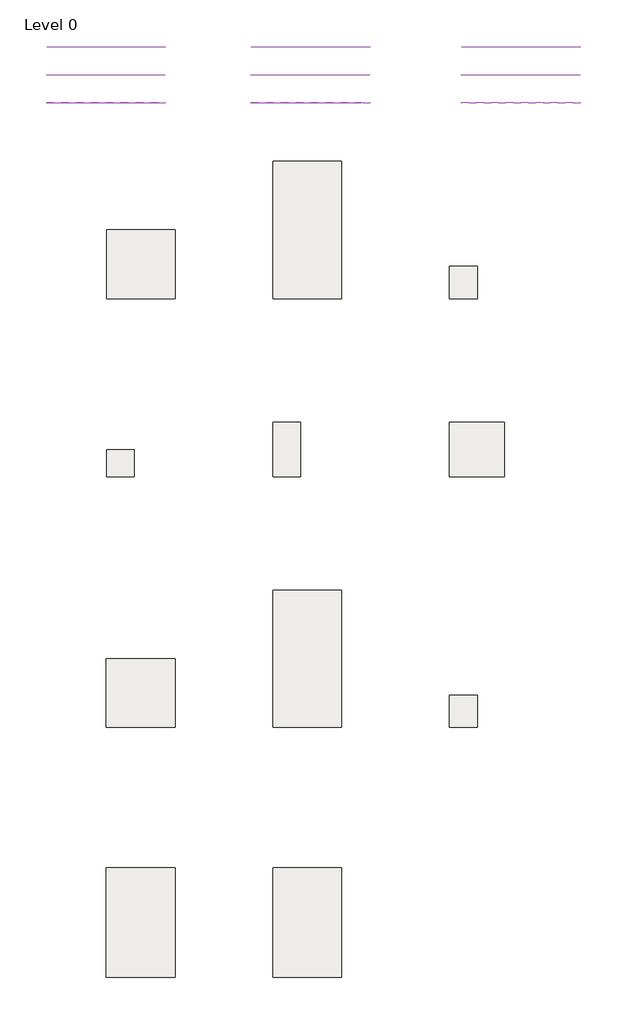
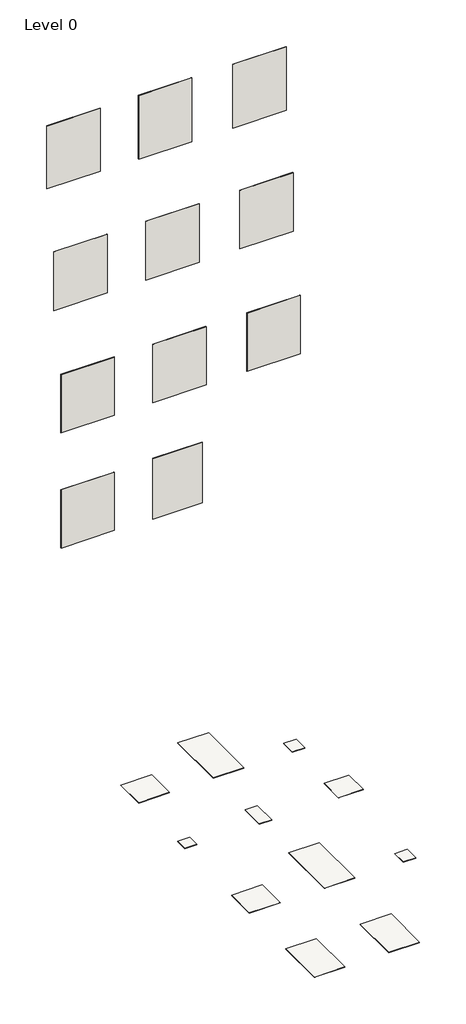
# One storey: 11 slabs, 11 walls.
"""IFC4 building model written with IfcOpenShell, lengths in millimetres."""

from ifc_helpers import new_model, si_unit, frame, origin, place, context, project, spatial, polyline, outline, extrude, element, save

model = new_model("IFC4")

# Units and contexts
model_context = context("Model", 3, world=origin())
ifc_project = project(units=[si_unit("LENGTHUNIT", "METRE", prefix="MILLI")], contexts=[model_context])

# Site, building, storey
site = spatial("IfcSite", under=ifc_project)
building = spatial("IfcBuilding", under=site)
storey = spatial("IfcBuildingStorey", under=building, Name="Level 0", Elevation=0.0)

# Slabs
placement = place(None, origin())
element("IfcSlab", 1, ObjectType="Floor_Tiles_Refin-Prestigio_Travertino-Bianco-Lucido-Mosaico-Cube 30.4x35.2 OO31", at=placement, inside=storey, context=model_context, shape_type="SweptSolid", body=[
    extrude(outline(polyline([(10631.1861419, 5741.4623743), (10631.1861419, 5389.4623743), (10327.1861419, 5389.4623743), (10327.1861419, 5741.4623743), (10631.1861419, 5741.4623743)])), frame((0.0, 0.0, -10.0), z_axis=(0.0, 0.0, 1.0), x_axis=(1.0, 0.0, 0.0)), (0.0, 0.0, 1.0), 10.0),
])
element("IfcSlab", 2, ObjectType="Floor_Tiles_Refin-Prestigio_Travertino-Bianco-Lucido-75x75 OO02", at=placement, inside=storey, context=model_context, shape_type="SweptSolid", body=[
    extrude(outline(polyline([(7324.3752062, 6139.4623743), (7324.3752062, 5389.4623743), (6574.3752062, 5389.4623743), (6574.3752062, 6139.4623743), (7324.3752062, 6139.4623743)])), frame((0.0, 0.0, -10.0), z_axis=(0.0, 0.0, 1.0), x_axis=(1.0, 0.0, 0.0)), (0.0, 0.0, 1.0), 10.0),
])
element("IfcSlab", 3, ObjectType="Floor_Tiles_Refin-Prestigio_Travertino-Bianco-Soft-60x60 OO05", at=placement, inside=storey, context=model_context, shape_type="SweptSolid", body=[
    extrude(outline(polyline([(10927.1861419, 4039.4623743), (10927.1861419, 3439.4623743), (10327.1861419, 3439.4623743), (10327.1861419, 4039.4623743), (10927.1861419, 4039.4623743)])), frame((0.0, 0.0, -10.0), z_axis=(0.0, 0.0, 1.0), x_axis=(1.0, 0.0, 0.0)), (0.0, 0.0, 1.0), 10.0),
])
element("IfcSlab", 4, ObjectType="Floor_Tiles_Refin-Prestigio_Travertino-Bianco-Soft-30x60 OO08", at=placement, inside=storey, context=model_context, shape_type="SweptSolid", body=[
    extrude(outline(polyline([(8697.3924055, 4039.4623743), (8697.3924055, 3439.4623743), (8397.3924055, 3439.4623743), (8397.3924055, 4039.4623743), (8697.3924055, 4039.4623743)])), frame((0.0, 0.0, -10.0), z_axis=(0.0, 0.0, 1.0), x_axis=(1.0, 0.0, 0.0)), (0.0, 0.0, 1.0), 10.0),
])
element("IfcSlab", 5, ObjectType="Floor_Tiles_Refin-Prestigio_Travertino-Bianco-Lucido-Mosaico-T 30x30 OO37", at=placement, inside=storey, context=model_context, shape_type="SweptSolid", body=[
    extrude(outline(polyline([(6874.3752062, 3739.4623743), (6874.3752062, 3439.4623743), (6574.3752062, 3439.4623743), (6574.3752062, 3739.4623743), (6874.3752062, 3739.4623743)])), frame((0.0, 0.0, -10.0), z_axis=(0.0, 0.0, 1.0), x_axis=(1.0, 0.0, 0.0)), (0.0, 0.0, 1.0), 10.0),
])
element("IfcSlab", 6, ObjectType="Floor_Tiles_Refin-Prestigio_Travertino-Bianco-Soft-75x75 ON99", at=placement, inside=storey, context=model_context, shape_type="SweptSolid", body=[
    extrude(outline(polyline([(7322.6009331, 1453.4367235), (7322.6009331, 703.4367235), (6572.6009331, 703.4367235), (6572.6009331, 1453.4367235), (7322.6009331, 1453.4367235)])), frame((0.0, 0.0, -10.0), z_axis=(0.0, 0.0, 1.0), x_axis=(1.0, 0.0, 0.0)), (0.0, 0.0, 1.0), 10.0),
])
element("IfcSlab", 7, ObjectType="Floor_Tiles_Refin-Prestigio_Travertino-Bianco-Soft-75x150 OM87", at=placement, inside=storey, context=model_context, shape_type="SweptSolid", body=[
    extrude(outline(polyline([(9147.3924055, 6888.4192064), (9147.3924055, 5388.4192064), (8397.3924055, 5388.4192064), (8397.3924055, 6888.4192064), (9147.3924055, 6888.4192064)])), frame((0.0, 0.0, -10.0), z_axis=(0.0, 0.0, 1.0), x_axis=(1.0, 0.0, 0.0)), (0.0, 0.0, 1.0), 10.0),
])
element("IfcSlab", 8, ObjectType="Floor_Tiles_Refin-Prestigio_Travertino-Bianco-Soft-75x150 OM84", at=placement, inside=storey, context=model_context, shape_type="SweptSolid", body=[
    extrude(outline(polyline([(9145.6181323, 2203.4367235), (9145.6181323, 703.4367235), (8395.6181323, 703.4367235), (8395.6181323, 2203.4367235), (9145.6181323, 2203.4367235)])), frame((0.0, 0.0, -10.0), z_axis=(0.0, 0.0, 1.0), x_axis=(1.0, 0.0, 0.0)), (0.0, 0.0, 1.0), 10.0),
])
element("IfcSlab", 9, ObjectType="Floor_Tiles_Refin-Prestigio_Travertino-Bianco-Soft-Mosaico-Cube 30.4x35.2 OO34", at=placement, inside=storey, context=model_context, shape_type="SweptSolid", body=[
    extrude(outline(polyline([(10629.4118688, 1055.4367235), (10629.4118688, 703.4367235), (10325.4118688, 703.4367235), (10325.4118688, 1055.4367235), (10629.4118688, 1055.4367235)])), frame((0.0, 0.0, -10.0), z_axis=(0.0, 0.0, 1.0), x_axis=(1.0, 0.0, 0.0)), (0.0, 0.0, 1.0), 10.0),
])
element("IfcSlab", 10, ObjectType="Floor_Tiles_Refin-Prestigio_Travertino-Bianco-Soft-60x120 OZ36", at=placement, inside=storey, context=model_context, shape_type="SweptSolid", body=[
    extrude(outline(polyline([(7322.6009331, -832.5889273), (7322.6009331, -2032.5889273), (6572.6009331, -2032.5889273), (6572.6009331, -832.5889273), (7322.6009331, -832.5889273)])), frame((0.0, 0.0, -10.0), z_axis=(0.0, 0.0, 1.0), x_axis=(1.0, 0.0, 0.0)), (0.0, 0.0, 1.0), 10.0),
])
element("IfcSlab", 11, ObjectType="Floor_Tiles_Refin-Prestigio_Travertino-Dorico-Bianco-60x120 OZ79", at=placement, inside=storey, context=model_context, shape_type="SweptSolid", body=[
    extrude(outline(polyline([(9145.6181323, -832.5889273), (9145.6181323, -2032.5889273), (8395.6181323, -2032.5889273), (8395.6181323, -832.5889273), (9145.6181323, -832.5889273)])), frame((0.0, 0.0, -10.0), z_axis=(0.0, 0.0, 1.0), x_axis=(1.0, 0.0, 0.0)), (0.0, 0.0, 1.0), 10.0),
])

# Walls
element("IfcWall", 12, ObjectType="Floor_Tiles_Refin-Prestigio_Travertino-Bianco-Lucido-75x150 OM87", at=placement, inside=storey, context=model_context, shape_type="SweptSolid", body=[
    extrude(outline(polyline([(9457.3752062, 8132.3838631), (8157.3752062, 8132.3838631), (8157.3752062, 8142.3838631), (9457.3752062, 8142.3838631), (9457.3752062, 8132.3838631)])), frame((0.0, 0.0, 14387.6770443), z_axis=(0.0, 0.0, 1.0), x_axis=(1.0, 0.0, 0.0)), (0.0, 0.0, 1.0), 1641.7417352),
])
element("IfcWall", 13, ObjectType="Floor_Tiles_Refin-Prestigio_Travertino-Bianco-Lucido-Mosaico-Cube 30.4x35.2 OO31", at=placement, inside=storey, context=model_context, shape_type="SweptSolid", body=[
    extrude(outline(polyline([(11757.3752062, 8132.3838631), (10457.3752062, 8132.3838631), (10457.3752062, 8142.3838631), (11757.3752062, 8142.3838631), (11757.3752062, 8132.3838631)])), frame((0.0, 0.0, 14387.6770443), z_axis=(0.0, 0.0, 1.0), x_axis=(1.0, 0.0, 0.0)), (0.0, 0.0, 1.0), 1641.7417352),
])
element("IfcWall", 14, ObjectType="Floor_Tiles_Refin-Prestigio_Travertino-Bianco-Lucido-75x75 OO02", at=placement, inside=storey, context=model_context, shape_type="SweptSolid", body=[
    extrude(outline(polyline([(7217.3752062, 8132.3838631), (5917.3752062, 8132.3838631), (5917.3752062, 8142.3838631), (7217.3752062, 8142.3838631), (7217.3752062, 8132.3838631)])), frame((0.0, 0.0, 14403.7267346), z_axis=(0.0, 0.0, 1.0), x_axis=(1.0, 0.0, 0.0)), (0.0, 0.0, 1.0), 1625.692045),
])
element("IfcWall", 15, ObjectType="Floor_Tiles_Refin-Prestigio_Travertino-Bianco-Lucido-Mosaico-T 30x30 OO37", at=placement, inside=storey, context=model_context, shape_type="SweptSolid", body=[
    extrude(outline(polyline([(7217.3752062, 7827.3838631), (5917.3752062, 7827.3838631), (5917.3752062, 7837.3838631), (7217.3752062, 7837.3838631), (7217.3752062, 7827.3838631)])), frame((0.0, 0.0, 11452.5436262), z_axis=(0.0, 0.0, 1.0), x_axis=(1.0, 0.0, 0.0)), (0.0, 0.0, 1.0), 1513.1985566),
])
element("IfcWall", 16, ObjectType="Floor_Tiles_Refin-Prestigio_Travertino-Bianco-Soft-30x60 OO08", at=placement, inside=storey, context=model_context, shape_type="SweptSolid", body=[
    extrude(outline(polyline([(9457.3752062, 7827.3838631), (8157.3752062, 7827.3838631), (8157.3752062, 7837.3838631), (9457.3752062, 7837.3838631), (9457.3752062, 7827.3838631)])), frame((0.0, 0.0, 11452.5436262), z_axis=(0.0, 0.0, 1.0), x_axis=(1.0, 0.0, 0.0)), (0.0, 0.0, 1.0), 1513.1985566),
])
element("IfcWall", 17, ObjectType="Floor_Tiles_Refin-Prestigio_Travertino-Bianco-Soft-60x60 OO05", at=placement, inside=storey, context=model_context, shape_type="SweptSolid", body=[
    extrude(outline(polyline([(11757.3752062, 7827.3838631), (10457.3752062, 7827.3838631), (10457.3752062, 7837.3838631), (11757.3752062, 7837.3838631), (11757.3752062, 7827.3838631)])), frame((0.0, 0.0, 11452.5436262), z_axis=(0.0, 0.0, 1.0), x_axis=(1.0, 0.0, 0.0)), (0.0, 0.0, 1.0), 1513.1985566),
])
element("IfcWall", 18, ObjectType="Floor_Tiles_Refin-Prestigio_Travertino-Bianco-Soft-75x75 ON99", at=placement, inside=storey, context=model_context, shape_type="SweptSolid", body=[
    extrude(outline(polyline([(7217.3752062, 7522.3838631), (5917.3752062, 7522.3838631), (5917.3752062, 7532.3838631), (7217.3752062, 7532.3838631), (7217.3752062, 7522.3838631)])), frame((0.0, 0.0, 8479.1027214), z_axis=(0.0, 0.0, 1.0), x_axis=(1.0, 0.0, 0.0)), (0.0, 0.0, 1.0), 1502.5740159),
])
element("IfcWall", 19, ObjectType="Floor_Tiles_Refin-Prestigio_Travertino-Bianco-Soft-75x150 OM84", at=placement, inside=storey, context=model_context, shape_type="SweptSolid", body=[
    extrude(outline(polyline([(9457.3752062, 7522.3838631), (8157.3752062, 7522.3838631), (8157.3752062, 7532.3838631), (9457.3752062, 7532.3838631), (9457.3752062, 7522.3838631)])), frame((0.0, 0.0, 8479.1027214), z_axis=(0.0, 0.0, 1.0), x_axis=(1.0, 0.0, 0.0)), (0.0, 0.0, 1.0), 1502.5740159),
])
element("IfcWall", 20, ObjectType="Floor_Tiles_Refin-Prestigio_Travertino-Bianco-Soft-Mosaico-Cube 30.4x35.2 OO34", at=placement, inside=storey, context=model_context, shape_type="SweptSolid", body=[
    extrude(outline(polyline([(11757.3752062, 7522.3838631), (10457.3752062, 7522.3838631), (10457.3752062, 7532.3838631), (11757.3752062, 7532.3838631), (11757.3752062, 7522.3838631)])), frame((0.0, 0.0, 8479.1027214), z_axis=(0.0, 0.0, 1.0), x_axis=(1.0, 0.0, 0.0)), (0.0, 0.0, 1.0), 1502.5740159),
])
element("IfcWall", 21, ObjectType="Floor_Tiles_Refin-Prestigio_Travertino-Bianco-Soft-60x120 OZ36", at=placement, inside=storey, context=model_context, shape_type="SweptSolid", body=[
    extrude(outline(polyline([(5917.3752062, 7532.3838631), (7217.3752062, 7532.3838631), (7217.3752062, 7522.3838631), (5917.3752062, 7522.3838631), (5917.3752062, 7532.3838631)])), frame((0.0, 0.0, 5505.6618166), z_axis=(0.0, 0.0, 1.0), x_axis=(1.0, 0.0, 0.0)), (0.0, 0.0, 1.0), 1502.5740159),
])
element("IfcWall", 22, ObjectType="Floor_Tiles_Refin-Prestigio_Travertino-Dorico-Bianco-60x120 OZ79", at=placement, inside=storey, context=model_context, shape_type="SweptSolid", body=[
    extrude(outline(polyline([(8157.3752062, 7532.3838631), (9357.3752062, 7532.3838631), (9357.3752062, 7522.3838631), (8157.3752062, 7522.3838631), (8157.3752062, 7532.3838631)])), frame((0.0, 0.0, 5472.6344814), z_axis=(0.0, 0.0, 1.0), x_axis=(1.0, 0.0, 0.0)), (0.0, 0.0, 1.0), 1560.4587419),
])

save(model, "model.ifc")
